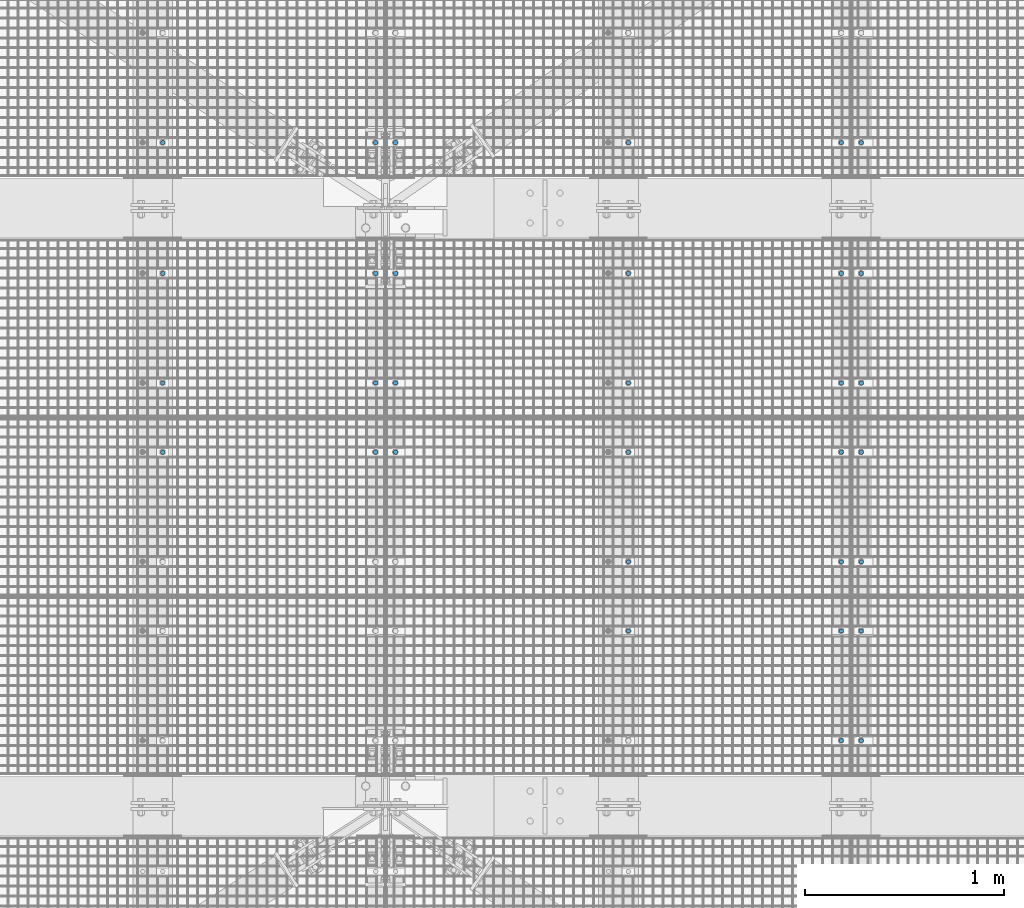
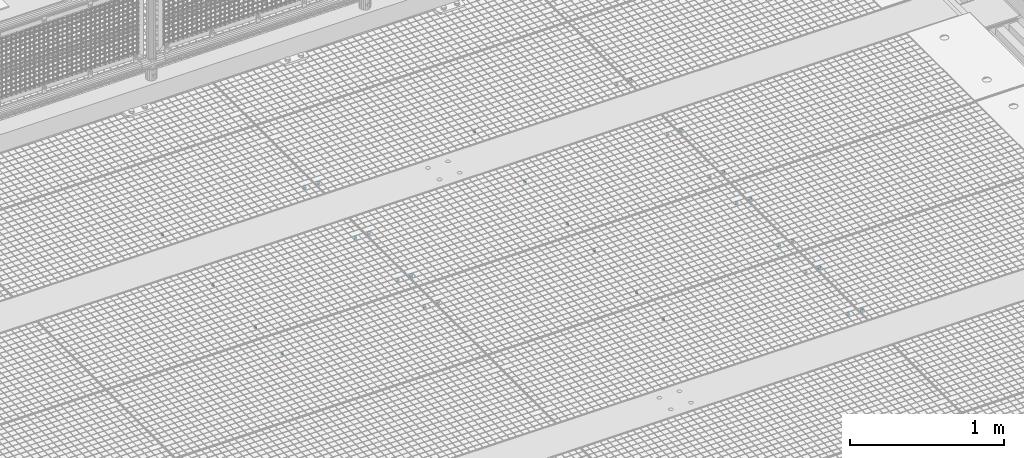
# One storey, part 69 of 1530: 32 mechanical fasteners.
"""IFC2X3 building model written with IfcOpenShell, lengths in millimetres."""

from ifc_helpers import new_model, si_unit, frame, origin_with_axes, place, context, subcontext, project, spatial, faceted_brep, source, transform, mapped, material, type_object, element, save


model = new_model("IFC2X3")

# Units and contexts
model_context = context("Model", 3, precision=1e-05, world=origin_with_axes())
body_context = subcontext(model_context, "Body", "Model", "MODEL_VIEW")
ifc_project = project(units=[si_unit("LENGTHUNIT", "METRE", prefix="MILLI"), si_unit("AREAUNIT", "SQUARE_METRE"), si_unit("VOLUMEUNIT", "CUBIC_METRE"), si_unit("MASSUNIT", "GRAM", prefix="KILO"), si_unit("TIMEUNIT", "SECOND"), si_unit("PLANEANGLEUNIT", "RADIAN"), si_unit("SOLIDANGLEUNIT", "STERADIAN"), si_unit("THERMODYNAMICTEMPERATUREUNIT", "DEGREE_CELSIUS"), si_unit("LUMINOUSINTENSITYUNIT", "LUMEN")], contexts=[model_context])

# Site, building, storey
site_placement = place(None, origin_with_axes())
site = spatial("IfcSite", under=ifc_project, at=site_placement, Name="Brattvåg", CompositionType="ELEMENT")
building_placement = place(site_placement, origin_with_axes())
building = spatial("IfcBuilding", under=site, at=building_placement, Name="Undefined", CompositionType="ELEMENT")
storey_placement = place(building_placement, origin_with_axes())
storey = spatial("IfcBuildingStorey", under=building, at=storey_placement, Name="Undefined", CompositionType="ELEMENT", Elevation=0.0)

# Mechanical fasteners
ifc_material = material(Name="8")
mechanical_fastener_type = type_object("IfcMechanicalFastenerType", Name="Bolt assembly")
shared_shape = source(origin_with_axes(), body_context, "Body", "Brep", [
    faceted_brep([(11.0, -4.99999999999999, 0.0), (9.52627944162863, -4.99999999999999, 5.50000000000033), (5.49999999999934, -4.99999999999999, 9.5262794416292), (-1.13996957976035e-12, -4.99999999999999, 11.0), (-5.50000000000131, -4.99999999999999, 9.52627944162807), (-9.52627944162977, -4.99999999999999, 5.49999999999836), (-11.0, -4.99999999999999, -2.27993915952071e-12), (-9.5262794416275, -4.99999999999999, -5.5000000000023), (-5.49999999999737, -4.99999999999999, -9.52627944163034), (3.40769628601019e-12, -4.99999999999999, -11.0), (5.50000000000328, -4.99999999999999, -9.52627944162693), (9.52627944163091, -4.99999999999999, -5.49999999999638), (9.52627944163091, 10.1, -5.49999999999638), (5.50000000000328, 10.1, -9.52627944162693), (3.40769628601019e-12, 10.1, -11.0), (-5.49999999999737, 10.1, -9.52627944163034), (-9.5262794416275, 10.1, -5.5000000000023), (-11.0, 10.1, -2.27993915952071e-12), (-9.52627944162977, 10.1, 5.49999999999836), (-5.50000000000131, 10.1, 9.52627944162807), (-1.13996957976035e-12, 10.1, 11.0), (5.49999999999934, 10.1, 9.5262794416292), (9.52627944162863, 10.1, 5.50000000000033), (11.0, 10.1, 0.0)], [[[0, 1, 2, 3, 4, 5, 6, 7, 8, 9, 10, 11]], [[12, 13, 14, 15, 16, 17, 18, 19, 20, 21, 22, 23]], [[0, 23, 22, 1]], [[1, 22, 21, 2]], [[2, 21, 20, 3]], [[3, 20, 19, 4]], [[4, 19, 18, 5]], [[5, 18, 17, 6]], [[6, 17, 16, 7]], [[7, 16, 15, 8]], [[8, 15, 14, 9]], [[9, 14, 13, 10]], [[10, 13, 12, 11]], [[11, 12, 23, 0]]]),
])
for number, where, z_axis, x_axis, name in (
    (1, (14636.0047793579, 6327.91931152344, -35.0), (0.0, 1.0, 0.0), (1.0, 0.0, 0.0), "Bolt assembly"),
    (2, (14636.0047793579, 5121.91931152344, -35.0), (0.0, 1.0, 0.0), (1.0, 0.0, 0.0), "Bolt assembly"),
    (3, (14636.0047793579, 5671.99411010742, -35.0), (0.0, 1.0, 0.0), (1.0, 0.0, 0.0), "Bolt assembly"),
    (4, (14636.0047793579, 4224.91931152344, -35.0), (0.0, 1.0, 0.0), (1.0, 0.0, 0.0), "Bolt assembly"),
    (5, (14636.0047793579, 4774.99411010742, -35.0), (0.0, 1.0, 0.0), (1.0, 0.0, 0.0), "Bolt assembly"),
    (6, (14636.0047793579, 3327.91931152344, -35.0), (0.0, 1.0, 0.0), (1.0, 0.0, 0.0), "Bolt assembly"),
    (7, (14636.0047793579, 3877.99411010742, -35.0), (0.0, 1.0, 0.0), (1.0, 0.0, 0.0), "Bolt assembly"),
    (8, (12300.0047793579, 6327.98931152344, -35.0), (0.0, 1.0, 0.0), (1.0, 0.0, 0.0), "Bolt assembly"),
    (9, (14536.0148773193, 6327.9904864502, -35.0), (0.0, -1.0, 0.0), (-1.0, 1.99999855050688e-09, 0.0), "Bolt assembly"),
    (10, (13468.0119254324, 6327.99, -35.0), (0.0, -1.0, 0.0), (-1.0, 1.99999855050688e-09, 0.0), "Bolt assembly"),
    (11, (12300.0047793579, 5121.98931152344, -35.0), (0.0, 1.0, 0.0), (1.0, 0.0, 0.0), "Bolt assembly"),
    (12, (12300.0047793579, 5671.99411010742, -35.0), (0.0, 1.0, 0.0), (1.0, 0.0, 0.0), "Bolt assembly"),
    (13, (14536.0148773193, 5671.99411010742, -35.0), (0.0, -1.0, 0.0), (-1.0, 1.99999855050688e-09, 0.0), "Bolt assembly"),
    (14, (14536.0148773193, 5121.9904864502, -35.0), (0.0, -1.0, 0.0), (-1.0, 1.99999855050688e-09, 0.0), "Bolt assembly"),
    (15, (13468.0145606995, 5671.99565124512, -35.0), (0.0, -1.0, 0.0), (-1.0, 1.99999855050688e-09, 0.0), "Bolt assembly"),
    (16, (13468.0119254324, 5121.99, -35.0), (0.0, -1.0, 0.0), (-1.0, 1.99999855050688e-09, 0.0), "Bolt assembly"),
    (17, (12300.0047793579, 4774.99411010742, -35.0), (0.0, 1.0, 0.0), (1.0, 0.0, 0.0), "Bolt assembly"),
    (18, (14536.0148773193, 4774.99411010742, -35.0), (0.0, -1.0, 0.0), (-1.0, 1.99999855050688e-09, 0.0), "Bolt assembly"),
    (19, (14536.0148773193, 4224.9904864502, -35.0), (0.0, -1.0, 0.0), (-1.0, 1.99999855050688e-09, 0.0), "Bolt assembly"),
    (20, (13468.0145606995, 4774.99565124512, -35.0), (0.0, -1.0, 0.0), (-1.0, 1.99999855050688e-09, 0.0), "Bolt assembly"),
    (21, (13468.0119254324, 4224.99, -35.0), (0.0, -1.0, 0.0), (-1.0, 1.99999855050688e-09, 0.0), "Bolt assembly"),
    (22, (14536.0148773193, 3877.99411010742, -35.0), (0.0, -1.0, 0.0), (-1.0, 1.99999855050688e-09, 0.0), "Bolt assembly"),
    (23, (14536.0148773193, 3327.9904864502, -35.0), (0.0, -1.0, 0.0), (-1.0, 1.99999855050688e-09, 0.0), "Bolt assembly"),
    (24, (13468.0145606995, 3877.99565124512, -35.0), (0.0, -1.0, 0.0), (-1.0, 1.99999855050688e-09, 0.0), "Bolt assembly"),
    (25, (12200.0148773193, 6327.9904864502, -35.0), (0.0, -1.0, 0.0), (-1.0, 1.99999855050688e-09, 0.0), "Bolt assembly"),
    (26, (11132.0119254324, 6327.99, -35.0), (0.0, -1.0, 0.0), (-1.0, 1.99999855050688e-09, 0.0), "Bolt assembly"),
    (27, (12200.0148773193, 5671.99411010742, -35.0), (0.0, -1.0, 0.0), (-1.0, 1.99999855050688e-09, 0.0), "Bolt assembly"),
    (28, (12200.0148773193, 5121.9904864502, -35.0), (0.0, -1.0, 0.0), (-1.0, 1.99999855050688e-09, 0.0), "Bolt assembly"),
    (29, (11132.0145606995, 5671.99565124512, -35.0), (0.0, -1.0, 0.0), (-1.0, 1.99999855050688e-09, 0.0), "Bolt assembly"),
    (30, (11132.0119254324, 5121.99, -35.0), (0.0, -1.0, 0.0), (-1.0, 1.99999855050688e-09, 0.0), "Bolt assembly"),
    (31, (12200.0148773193, 4774.99411010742, -35.0), (0.0, -1.0, 0.0), (-1.0, 1.99999855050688e-09, 0.0), "Bolt assembly"),
    (32, (11132.0145606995, 4774.99565124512, -35.0), (0.0, -1.0, 0.0), (-1.0, 1.99999855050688e-09, 0.0), "Bolt assembly"),
):
    element("IfcMechanicalFastener", number, at=place(storey_placement, frame(where, z_axis=z_axis, x_axis=x_axis)), inside=storey, type_object=mechanical_fastener_type, material=ifc_material, Name=name, NominalDiameter=20.0, NominalLength=15.0, context=body_context, shape_type="MappedRepresentation", body=[
        mapped(shared_shape, transform((0.0, 0.0, 0.0))),
    ])

save(model, "model.ifc")
